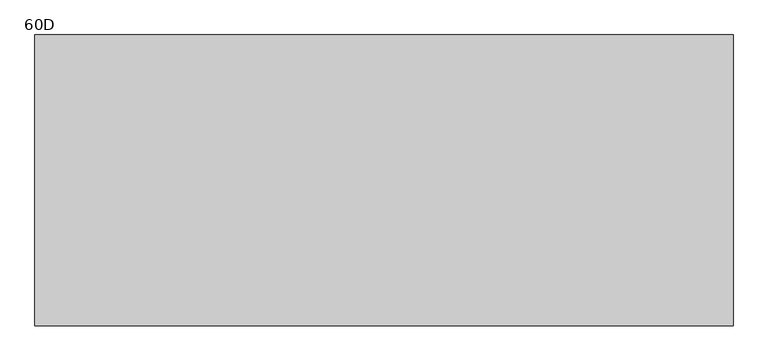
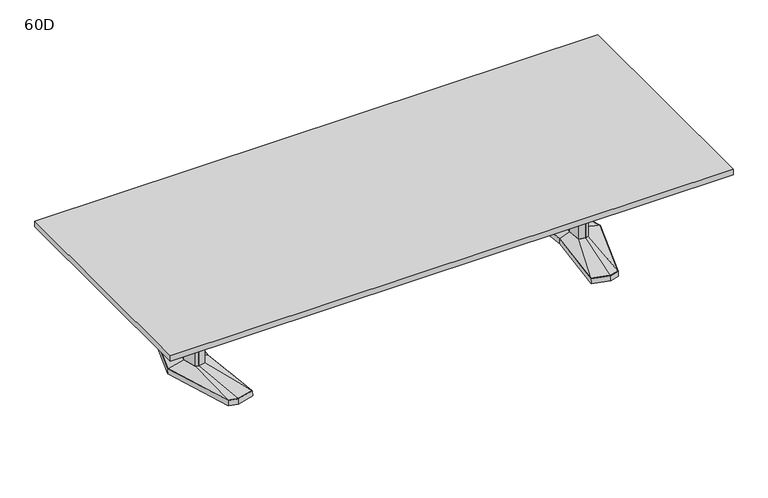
"""IFC4 building model written with IfcOpenShell, lengths in millimetres: furniture geometry, Coalesse_AM_Table_Conference_ETable2_Rectangular_12ft_AluminiumBase : 60D."""

from ifc_helpers import new_model, si_unit, frame, origin, place, context, project, spatial, polyline, outline, extrude, faceted_brep, source, transform, mapped, element, save
from ifc_brep_helpers import plane_surface, spline_surface, advanced_brep


def furniture_60d_d3f54ca7(model_context):
    return source(origin(), model_context, "Body", "SolidModel", [
        faceted_brep([(1210.6306835, 455.5848221, 38.1), (1101.0531277, 426.2263816, 38.1), (1142.2163717, 0.0, 38.1), (1101.0531277, -426.2263816, 38.1), (1210.6306835, -455.5848221, 38.1), (1266.7570396, -440.5478297, 38.1), (1404.0684269, 0.0, 38.1), (1266.7570396, 440.5478297, 38.1), (1210.6306754, 457.2283104, 3.175), (1268.0124472, 441.8549756, 3.175), (1405.73125, 0.0, 3.175), (1268.0124472, -441.8549756, 3.175), (1210.6306754, -457.2283104, 3.175), (1099.34375, -427.4118891, 3.175), (1140.6214856, 0.0, 3.175), (1099.34375, 427.4118891, 3.175), (1214.220115, 428.3273875, 3.175), (1109.1718228, 402.1057253, 3.175), (1117.290518, 377.985069, 3.175), (1217.8095466, 401.0699529, 3.175), (1268.3691725, 387.524361, 3.175), (1267.5631061, 414.0360954, 3.175), (1214.220115, -428.3273875, 3.175), (1267.5631061, -414.0360954, 3.175), (1268.3691725, -387.524361, 3.175), (1217.8095466, -401.0699529, 3.175), (1117.290518, -377.985069, 3.175), (1109.1718228, -402.1057253, 3.175), (1340.8153621, 0.0, 3.175), (1308.5459611, 120.4193755, 3.175), (1259.8987222, 133.471665, 3.175), (1180.0180526, 119.4176561, 3.175), (1168.8868466, 0.0, 3.175), (1180.0180526, -119.4176561, 3.175), (1259.8987222, -133.471665, 3.175), (1308.5459611, -120.4193755, 3.175), (1214.220115, 428.3273875, 0.0), (1267.5631061, 414.0360954, 0.0), (1268.3691725, 387.524361, 0.0), (1217.8095466, 401.0699529, 0.0), (1117.290518, 377.985069, 0.0), (1109.1718228, 402.1057253, 0.0), (1214.220115, -428.3273875, 0.0), (1109.1718228, -402.1057253, 0.0), (1117.290518, -377.985069, 0.0), (1217.8095466, -401.0699529, 0.0), (1268.3691725, -387.524361, 0.0), (1267.5631061, -414.0360954, 0.0), (1340.8153621, 0.0, 0.0), (1308.5459611, -120.4193755, 0.0), (1259.8987222, -133.471665, 0.0), (1180.0180526, -119.4176561, 0.0), (1168.8868466, 0.0, 0.0), (1180.0180526, 119.4176561, 0.0), (1259.8987222, 133.471665, 0.0), (1308.5459611, 120.4193755, 0.0)], [[[0, 1, 2, 3, 4, 5, 6, 7]], [[8, 9, 10, 11, 12, 13, 14, 15], [16, 17, 18, 19, 20, 21], [22, 23, 24, 25, 26, 27], [28, 29, 30, 31, 32, 33, 34, 35]], [[7, 9, 8, 0]], [[6, 10, 9, 7]], [[5, 11, 10, 6]], [[4, 12, 11, 5]], [[3, 13, 12, 4]], [[2, 14, 13, 3]], [[1, 15, 14, 2]], [[0, 8, 15, 1]], [[36, 37, 38, 39, 40, 41]], [[42, 43, 44, 45, 46, 47]], [[48, 49, 50, 51, 52, 53, 54, 55]], [[36, 16, 21, 37]], [[37, 21, 20, 38]], [[38, 20, 19, 39]], [[39, 19, 18, 40]], [[40, 18, 17, 41]], [[41, 17, 16, 36]], [[42, 22, 27, 43]], [[43, 27, 26, 44]], [[44, 26, 25, 45]], [[45, 25, 24, 46]], [[46, 24, 23, 47]], [[47, 23, 22, 42]], [[48, 28, 35, 49]], [[49, 35, 34, 50]], [[50, 34, 33, 51]], [[51, 33, 32, 52]], [[52, 32, 31, 53]], [[53, 31, 30, 54]], [[54, 30, 29, 55]], [[55, 29, 28, 48]]]),
        faceted_brep([(1301.3710836, 0.0, 698.5), (1277.4358546, 89.3188359, 698.5), (1260.5824984, 93.8406728, 698.5), (1258.1826511, 94.4845635, 698.5), (1215.255146, 86.9320037, 698.5), (1207.1520056, 0.0, 698.5), (1215.255146, -86.9320037, 698.5), (1258.1826511, -94.4845635, 698.5), (1260.5824984, -93.8406728, 698.5), (1277.4358546, -89.3188359, 698.5), (1301.3710836, 0.0, 63.5), (1277.4358546, -89.3188359, 63.5), (1260.5824984, -93.8406728, 63.5), (1258.1826511, -94.4845635, 63.5), (1215.255146, -86.9320037, 63.5), (1207.1520056, 0.0, 63.5), (1215.255146, 86.9320037, 63.5), (1258.1826511, 94.4845635, 63.5), (1260.5824984, 93.8406728, 63.5), (1277.4358546, 89.3188359, 63.5)], [[[0, 1, 2, 3, 4, 5, 6, 7, 8, 9]], [[10, 11, 12, 13, 14, 15, 16, 17, 18, 19]], [[9, 11, 10, 0]], [[8, 12, 11, 9]], [[7, 13, 12, 8]], [[6, 14, 13, 7]], [[5, 15, 14, 6]], [[4, 16, 15, 5]], [[3, 17, 16, 4]], [[2, 18, 17, 3]], [[1, 19, 18, 2]], [[0, 10, 19, 1]]]),
        advanced_brep(
        [(1258.1826511, 94.4845635, 63.5), (1215.255146, 86.9320037, 63.5), (1207.1520056, 0.0, 63.5), (1215.255146, -86.9320037, 63.5), (1258.1826511, -94.4845635, 63.5), (1277.4358546, -89.3188359, 63.5), (1301.3710836, 0.0, 63.5), (1277.4358546, 89.3188359, 63.5), (1210.6306835, 455.5848221, 38.1), (1266.7570396, 440.5478297, 38.1), (1404.0684269, 0.0, 38.1), (1266.7570396, -440.5478297, 38.1), (1210.6306835, -455.5848221, 38.1), (1101.0531277, -426.2263816, 38.1), (1142.2163717, 0.0, 38.1), (1101.0531277, 426.2263816, 38.1)],
        [
            (0, 1),
            (1, 2),
            (2, 3),
            (3, 4),
            (4, 5),
            (5, 6),
            (6, 7),
            (7, 0),
            (8, 9),
            (9, 10),
            (10, 11),
            (11, 12),
            (12, 13),
            (13, 14),
            (14, 15),
            (15, 8),
            (8, 0),
            (7, 9),
            (6, 10),
            (5, 11),
            (4, 12),
            (3, 13),
            (2, 14),
            (1, 15),
        ],
        [
            plane_surface(frame((1251.2837991, 0.0, 63.5), z_axis=(0.0, 0.0, 1.0), x_axis=(-0.25884244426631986, -0.9659195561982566, 0.0))),
            plane_surface(frame((1212.8958125, 0.0, 38.1), z_axis=(0.0, 0.0, -1.0), x_axis=(-0.25884244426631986, -0.9659195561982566, 0.0))),
            spline_surface(1, 1, [[(1210.6306835, 455.5848221, 38.1), (1266.7570396, 440.5478297, 38.1)], [(1258.1826511, 94.4845635, 63.5), (1277.4358546, 89.3188359, 63.5)]], [2, 2], [2, 2], [0.0, 1.0], [0.0, 1.0]),
            spline_surface(1, 1, [[(1266.7570396, 440.5478297, 38.1), (1404.0684269, 0.0, 38.1)], [(1277.4358546, 89.3188359, 63.5), (1301.3710836, 0.0, 63.5)]], [2, 2], [2, 2], [0.0, 1.0], [0.0, 1.0]),
            spline_surface(1, 1, [[(1404.0684269, 0.0, 38.1), (1266.7570396, -440.5478297, 38.1)], [(1301.3710836, 0.0, 63.5), (1277.4358546, -89.3188359, 63.5)]], [2, 2], [2, 2], [0.0, 1.0], [0.0, 1.0]),
            spline_surface(1, 1, [[(1266.7570396, -440.5478297, 38.1), (1210.6306835, -455.5848221, 38.1)], [(1277.4358546, -89.3188359, 63.5), (1258.1826511, -94.4845635, 63.5)]], [2, 2], [2, 2], [0.0, 1.0], [0.0, 1.0]),
            spline_surface(1, 1, [[(1210.6306835, -455.5848221, 38.1), (1101.0531277, -426.2263816, 38.1)], [(1258.1826511, -94.4845635, 63.5), (1215.255146, -86.9320037, 63.5)]], [2, 2], [2, 2], [0.0, 1.0], [0.0, 1.0]),
            spline_surface(1, 1, [[(1101.0531277, -426.2263816, 38.1), (1142.2163717, 0.0, 38.1)], [(1215.255146, -86.9320037, 63.5), (1207.1520056, 0.0, 63.5)]], [2, 2], [2, 2], [0.0, 1.0], [0.0, 1.0]),
            spline_surface(1, 1, [[(1142.2163717, 0.0, 38.1), (1101.0531277, 426.2263816, 38.1)], [(1207.1520056, 0.0, 63.5), (1215.255146, 86.9320037, 63.5)]], [2, 2], [2, 2], [0.0, 1.0], [0.0, 1.0]),
            spline_surface(1, 1, [[(1101.0531277, 426.2263816, 38.1), (1210.6306835, 455.5848221, 38.1)], [(1215.255146, 86.9320037, 63.5), (1258.1826511, 94.4845635, 63.5)]], [2, 2], [2, 2], [0.0, 1.0], [0.0, 1.0]),
        ],
        [
            (0, [[1, 2, 3, 4, 5, 6, 7, 8]]),
            (1, [[9, 10, 11, 12, 13, 14, 15, 16]]),
            (2, [[17, -8, 18, -9]]),
            (3, [[-18, -7, 19, -10]]),
            (4, [[-19, -6, 20, -11]]),
            (5, [[-20, -5, 21, -12]]),
            (6, [[-21, -4, 22, -13]]),
            (7, [[-22, -3, 23, -14]]),
            (8, [[-23, -2, 24, -15]]),
            (9, [[-24, -1, -17, -16]]),
        ],
    ),
        faceted_brep([(-1210.6306835, 455.5848221, 38.1), (-1266.7570396, 440.5478297, 38.1), (-1404.0684269, 0.0, 38.1), (-1266.7570396, -440.5478297, 38.1), (-1210.6306835, -455.5848221, 38.1), (-1101.0531277, -426.2263816, 38.1), (-1142.2163717, 0.0, 38.1), (-1101.0531277, 426.2263816, 38.1), (-1210.6306754, 457.2283104, 3.175), (-1099.34375, 427.4118891, 3.175), (-1140.6214856, 0.0, 3.175), (-1099.34375, -427.4118891, 3.175), (-1210.6306754, -457.2283104, 3.175), (-1268.0124472, -441.8549756, 3.175), (-1405.73125, 0.0, 3.175), (-1268.0124472, 441.8549756, 3.175), (-1214.220115, 428.3273875, 3.175), (-1267.5631061, 414.0360954, 3.175), (-1268.3691725, 387.524361, 3.175), (-1217.8095466, 401.0699529, 3.175), (-1117.290518, 377.985069, 3.175), (-1109.1718228, 402.1057253, 3.175), (-1214.220115, -428.3273875, 3.175), (-1109.1718228, -402.1057253, 3.175), (-1117.290518, -377.985069, 3.175), (-1217.8095466, -401.0699529, 3.175), (-1268.3691725, -387.524361, 3.175), (-1267.5631061, -414.0360954, 3.175), (-1340.8153621, 0.0, 3.175), (-1308.5459611, -120.4193755, 3.175), (-1259.8987222, -133.471665, 3.175), (-1180.0180526, -119.4176561, 3.175), (-1168.8868466, 0.0, 3.175), (-1180.0180526, 119.4176561, 3.175), (-1259.8987222, 133.471665, 3.175), (-1308.5459611, 120.4193755, 3.175), (-1214.220115, 428.3273875, 0.0), (-1109.1718228, 402.1057253, 0.0), (-1117.290518, 377.985069, 0.0), (-1217.8095466, 401.0699529, 0.0), (-1268.3691725, 387.524361, 0.0), (-1267.5631061, 414.0360954, 0.0), (-1214.220115, -428.3273875, 0.0), (-1267.5631061, -414.0360954, 0.0), (-1268.3691725, -387.524361, 0.0), (-1217.8095466, -401.0699529, 0.0), (-1117.290518, -377.985069, 0.0), (-1109.1718228, -402.1057253, 0.0), (-1340.8153621, 0.0, 0.0), (-1308.5459611, 120.4193755, 0.0), (-1259.8987222, 133.471665, 0.0), (-1180.0180526, 119.4176561, 0.0), (-1168.8868466, 0.0, 0.0), (-1180.0180526, -119.4176561, 0.0), (-1259.8987222, -133.471665, 0.0), (-1308.5459611, -120.4193755, 0.0)], [[[0, 1, 2, 3, 4, 5, 6, 7]], [[8, 9, 10, 11, 12, 13, 14, 15], [16, 17, 18, 19, 20, 21], [22, 23, 24, 25, 26, 27], [28, 29, 30, 31, 32, 33, 34, 35]], [[1, 0, 8, 15]], [[2, 1, 15, 14]], [[3, 2, 14, 13]], [[4, 3, 13, 12]], [[5, 4, 12, 11]], [[6, 5, 11, 10]], [[7, 6, 10, 9]], [[0, 7, 9, 8]], [[36, 37, 38, 39, 40, 41]], [[42, 43, 44, 45, 46, 47]], [[48, 49, 50, 51, 52, 53, 54, 55]], [[36, 41, 17, 16]], [[41, 40, 18, 17]], [[40, 39, 19, 18]], [[39, 38, 20, 19]], [[38, 37, 21, 20]], [[37, 36, 16, 21]], [[42, 47, 23, 22]], [[47, 46, 24, 23]], [[46, 45, 25, 24]], [[45, 44, 26, 25]], [[44, 43, 27, 26]], [[43, 42, 22, 27]], [[48, 55, 29, 28]], [[55, 54, 30, 29]], [[54, 53, 31, 30]], [[53, 52, 32, 31]], [[52, 51, 33, 32]], [[51, 50, 34, 33]], [[50, 49, 35, 34]], [[49, 48, 28, 35]]]),
        faceted_brep([(-1301.3710836, 0.0, 698.5), (-1277.4358546, -89.3188359, 698.5), (-1260.5824984, -93.8406728, 698.5), (-1258.1826511, -94.4845635, 698.5), (-1215.255146, -86.9320037, 698.5), (-1207.1520056, 0.0, 698.5), (-1215.255146, 86.9320037, 698.5), (-1258.1826511, 94.4845635, 698.5), (-1260.5824984, 93.8406728, 698.5), (-1277.4358546, 89.3188359, 698.5), (-1301.3710836, 0.0, 63.5), (-1277.4358546, 89.3188359, 63.5), (-1260.5824984, 93.8406728, 63.5), (-1258.1826511, 94.4845635, 63.5), (-1215.255146, 86.9320037, 63.5), (-1207.1520056, 0.0, 63.5), (-1215.255146, -86.9320037, 63.5), (-1258.1826511, -94.4845635, 63.5), (-1260.5824984, -93.8406728, 63.5), (-1277.4358546, -89.3188359, 63.5)], [[[0, 1, 2, 3, 4, 5, 6, 7, 8, 9]], [[10, 11, 12, 13, 14, 15, 16, 17, 18, 19]], [[1, 0, 10, 19]], [[2, 1, 19, 18]], [[3, 2, 18, 17]], [[4, 3, 17, 16]], [[5, 4, 16, 15]], [[6, 5, 15, 14]], [[7, 6, 14, 13]], [[8, 7, 13, 12]], [[9, 8, 12, 11]], [[0, 9, 11, 10]]]),
        advanced_brep(
        [(-1258.1826511, 94.4845635, 63.5), (-1277.4358546, 89.3188359, 63.5), (-1301.3710836, 0.0, 63.5), (-1277.4358546, -89.3188359, 63.5), (-1258.1826511, -94.4845635, 63.5), (-1215.255146, -86.9320037, 63.5), (-1207.1520056, 0.0, 63.5), (-1215.255146, 86.9320037, 63.5), (-1210.6306835, 455.5848221, 38.1), (-1101.0531277, 426.2263816, 38.1), (-1142.2163717, 0.0, 38.1), (-1101.0531277, -426.2263816, 38.1), (-1210.6306835, -455.5848221, 38.1), (-1266.7570396, -440.5478297, 38.1), (-1404.0684269, 0.0, 38.1), (-1266.7570396, 440.5478297, 38.1)],
        [
            (0, 1),
            (1, 2),
            (2, 3),
            (3, 4),
            (4, 5),
            (5, 6),
            (6, 7),
            (7, 0),
            (8, 9),
            (9, 10),
            (10, 11),
            (11, 12),
            (12, 13),
            (13, 14),
            (14, 15),
            (15, 8),
            (15, 1),
            (0, 8),
            (14, 2),
            (13, 3),
            (12, 4),
            (11, 5),
            (10, 6),
            (9, 7),
        ],
        [
            plane_surface(frame((-1251.2837991, 0.0, 63.5), z_axis=(0.0, 0.0, 1.0), x_axis=(0.25884244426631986, -0.9659195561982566, 0.0))),
            plane_surface(frame((-1212.8958125, 0.0, 38.1), z_axis=(0.0, 0.0, -1.0), x_axis=(0.25884244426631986, -0.9659195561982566, 0.0))),
            spline_surface(1, 1, [[(-1210.6306835, 455.5848221, 38.1), (-1258.1826511, 94.4845635, 63.5)], [(-1266.7570396, 440.5478297, 38.1), (-1277.4358546, 89.3188359, 63.5)]], [2, 2], [2, 2], [0.0, 1.0], [0.0, 1.0]),
            spline_surface(1, 1, [[(-1266.7570396, 440.5478297, 38.1), (-1277.4358546, 89.3188359, 63.5)], [(-1404.0684269, 0.0, 38.1), (-1301.3710836, 0.0, 63.5)]], [2, 2], [2, 2], [0.0, 1.0], [0.0, 1.0]),
            spline_surface(1, 1, [[(-1404.0684269, 0.0, 38.1), (-1301.3710836, 0.0, 63.5)], [(-1266.7570396, -440.5478297, 38.1), (-1277.4358546, -89.3188359, 63.5)]], [2, 2], [2, 2], [0.0, 1.0], [0.0, 1.0]),
            spline_surface(1, 1, [[(-1266.7570396, -440.5478297, 38.1), (-1277.4358546, -89.3188359, 63.5)], [(-1210.6306835, -455.5848221, 38.1), (-1258.1826511, -94.4845635, 63.5)]], [2, 2], [2, 2], [0.0, 1.0], [0.0, 1.0]),
            spline_surface(1, 1, [[(-1210.6306835, -455.5848221, 38.1), (-1258.1826511, -94.4845635, 63.5)], [(-1101.0531277, -426.2263816, 38.1), (-1215.255146, -86.9320037, 63.5)]], [2, 2], [2, 2], [0.0, 1.0], [0.0, 1.0]),
            spline_surface(1, 1, [[(-1101.0531277, -426.2263816, 38.1), (-1215.255146, -86.9320037, 63.5)], [(-1142.2163717, 0.0, 38.1), (-1207.1520056, 0.0, 63.5)]], [2, 2], [2, 2], [0.0, 1.0], [0.0, 1.0]),
            spline_surface(1, 1, [[(-1142.2163717, 0.0, 38.1), (-1207.1520056, 0.0, 63.5)], [(-1101.0531277, 426.2263816, 38.1), (-1215.255146, 86.9320037, 63.5)]], [2, 2], [2, 2], [0.0, 1.0], [0.0, 1.0]),
            spline_surface(1, 1, [[(-1101.0531277, 426.2263816, 38.1), (-1215.255146, 86.9320037, 63.5)], [(-1210.6306835, 455.5848221, 38.1), (-1258.1826511, 94.4845635, 63.5)]], [2, 2], [2, 2], [0.0, 1.0], [0.0, 1.0]),
        ],
        [
            (0, [[1, 2, 3, 4, 5, 6, 7, 8]]),
            (1, [[9, 10, 11, 12, 13, 14, 15, 16]]),
            (2, [[-16, 17, -1, 18]]),
            (3, [[-15, 19, -2, -17]]),
            (4, [[-14, 20, -3, -19]]),
            (5, [[-13, 21, -4, -20]]),
            (6, [[-12, 22, -5, -21]]),
            (7, [[-11, 23, -6, -22]]),
            (8, [[-10, 24, -7, -23]]),
            (9, [[-9, -18, -8, -24]]),
        ],
    ),
        extrude(outline(polyline([(96.8375, 698.5), (103.1875, 698.5), (103.1875, 476.25), (-103.1875, 476.25), (-103.1875, 698.5), (-96.8375, 698.5), (-96.8375, 482.6), (96.8375, 482.6), (96.8375, 698.5)])), frame((-1207.29375, 0.0, 0.0), z_axis=(1.0, 0.0, 0.0), x_axis=(0.0, 1.0, 0.0)), (0.0, 0.0, 1.0), 2414.5875),
        extrude(outline(polyline([(1828.8, 762.0), (1828.8, -762.0), (-1828.8, -762.0), (-1828.8, 762.0), (1828.8, 762.0)])), frame((0.0, 0.0, 698.5), z_axis=(0.0, 0.0, 1.0), x_axis=(1.0, 0.0, 0.0)), (0.0, 0.0, 1.0), 38.1),
    ])


if __name__ == "__main__":
    model = new_model("IFC4")
    model_context = context("Model", 3, world=origin())
    ifc_project = project(units=[si_unit("LENGTHUNIT", "METRE", prefix="MILLI")], contexts=[model_context])
    site = spatial("IfcSite", under=ifc_project)
    building = spatial("IfcBuilding", under=site)
    placement = place(None, origin())
    furniture_60d_shape = furniture_60d_d3f54ca7(model_context)
    element("IfcFurniture", 1, ObjectType="Coalesse_AM_Table_Conference_ETable2_Rectangular_12ft_AluminiumBase : 60D", at=placement, inside=building, context=model_context, shape_type="MappedRepresentation", body=[
        mapped(furniture_60d_shape, transform((0.0, 0.0, 0.0), x_axis=(1.0, 0.0, 0.0), y_axis=(0.0, 1.0, 0.0), z_axis=(0.0, 0.0, 1.0))),
    ])
    save(model, "model.ifc")
